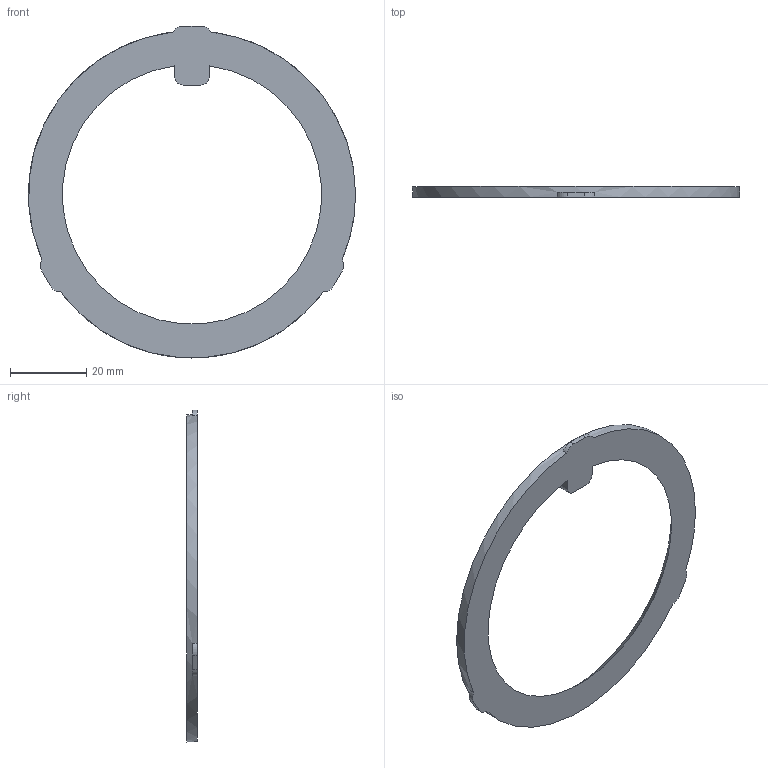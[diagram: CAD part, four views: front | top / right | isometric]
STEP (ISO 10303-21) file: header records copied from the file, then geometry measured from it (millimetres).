
FILE_DESCRIPTION(/* description */ ('Alibre Inc.'),/* implementation_level */ '2;1');
FILE_NAME(/* name */ 'export0',/* time_stamp */ '2017-02-12T12:06:09-05:00',/* author */ (''),/* organization */ (''),/* preprocessor_version */ 'ST-DEVELOPER v14',/* originating_system */ 'Alibre',/* authorisation */ '');
FILE_SCHEMA (('CONFIG_CONTROL_DESIGN'));
Length unit declared in the file: centimetre
Products named in the file (1): ID_1
Bounding box: 85.85 x 2.79 x 87.12 mm (x, y, z)
Volume: 5352.9 mm3; surface area: 5516.5 mm2
Topology: 1 solids, 1 shells, 21 faces, 57 edges, 38 vertices
Faces by surface type: plane 11, cylinder 9, cone 1
Full cylindrical faces by diameter (mm): 85.852 x1
Entity records: 728 total; most frequent: CARTESIAN_POINT 115, ORIENTED_EDGE 110, DIRECTION 105, EDGE_CURVE 55, AXIS2_PLACEMENT_3D 44, VERTEX_POINT 37, VECTOR 28, LINE 28
